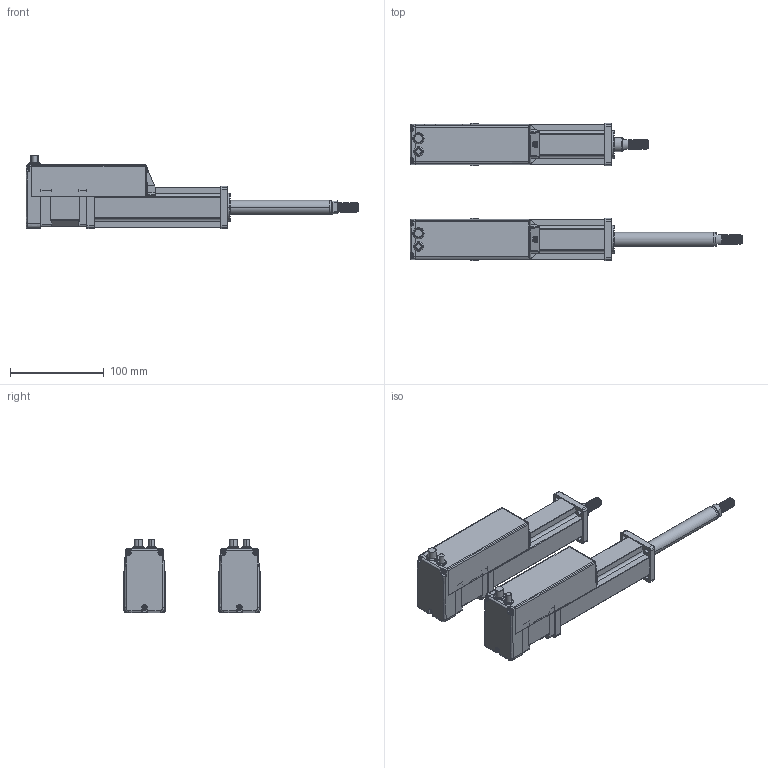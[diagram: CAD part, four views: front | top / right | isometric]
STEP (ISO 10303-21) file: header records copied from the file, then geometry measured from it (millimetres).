
FILE_DESCRIPTION(('STEP AP214'),'1');
FILE_NAME('K:\外形図\3D_DAD2\SCN5\tmp0.step',' ',(' '),(' '),'XStep 1.0',' ',' ');
FILE_SCHEMA(('automotive_design'));
Length unit declared in the file: millimetre
Bounding box: 354.5 x 146.36 x 78 mm (x, y, z)
Volume: 1006863.5 mm3; surface area: 188018.6 mm2
Topology: 40 solids, 40 shells, 996 faces, 2576 edges, 1654 vertices
Faces by surface type: plane 424, cylinder 376, bspline 126, torus 58, sphere 8, cone 4
Entity records: 155228 total; most frequent: CARTESIAN_POINT 122248, ORIENTED_EDGE 5136, DIRECTION 4996, EDGE_CURVE 2568, AXIS2_PLACEMENT_3D 1851, VERTEX_POINT 1654, LINE 1294, VECTOR 1294
